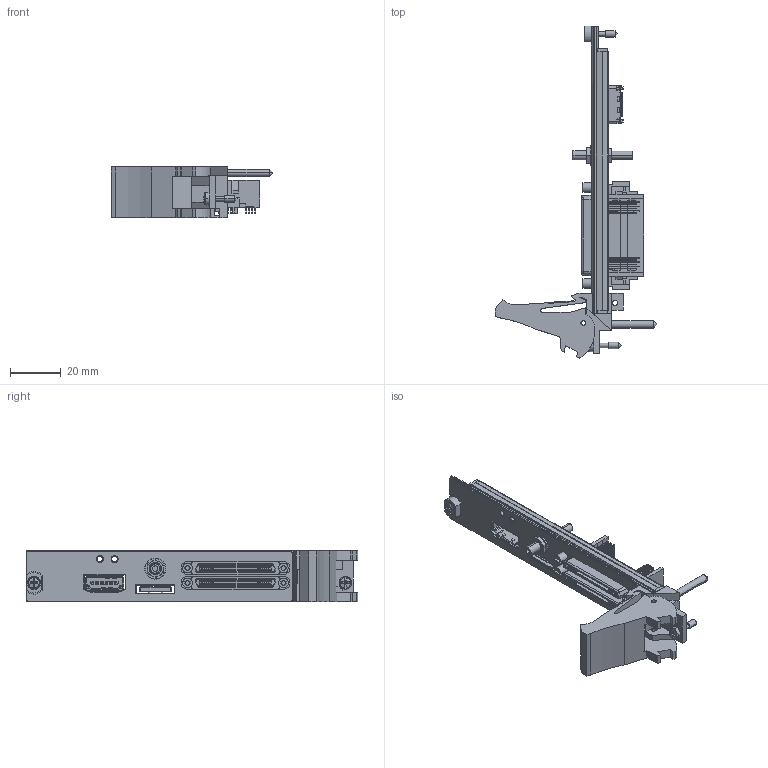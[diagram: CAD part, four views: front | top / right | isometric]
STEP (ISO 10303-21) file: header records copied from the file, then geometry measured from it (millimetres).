
FILE_DESCRIPTION((''),'2;1');
FILE_NAME('CU_PXI-2172','2012-07-23T',('jjorden'),(''),'PRO/ENGINEER BY PARAMETRIC TECHNOLOGY CORPORATION, 2010230','PRO/ENGINEER BY PARAMETRIC TECHNOLOGY CORPORATION, 2010230','');
FILE_SCHEMA(('CONFIG_CONTROL_DESIGN'));
Length unit declared in the file: inch
Products named in the file (1): CU_PXI-2172
Bounding box: 63.53 x 130.5 x 20.31 mm (x, y, z)
Volume: 17804.3 mm3; surface area: 24499.9 mm2
Topology: 4 solids, 4 shells, 3776 faces, 10767 edges, 6989 vertices
Faces by surface type: plane 3089, cylinder 629, cone 42, sphere 12, torus 4
Entity records: 122417 total; most frequent: CARTESIAN_POINT 22293, ORIENTED_EDGE 21526, DIRECTION 19660, EDGE_CURVE 10763, VECTOR 9318, LINE 9318, VERTEX_POINT 6989, AXIS2_PLACEMENT_3D 5171
